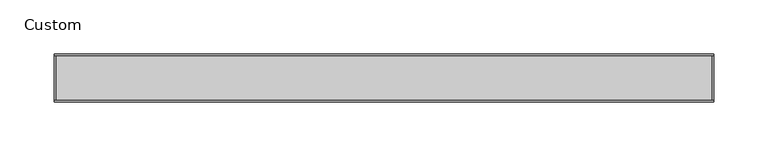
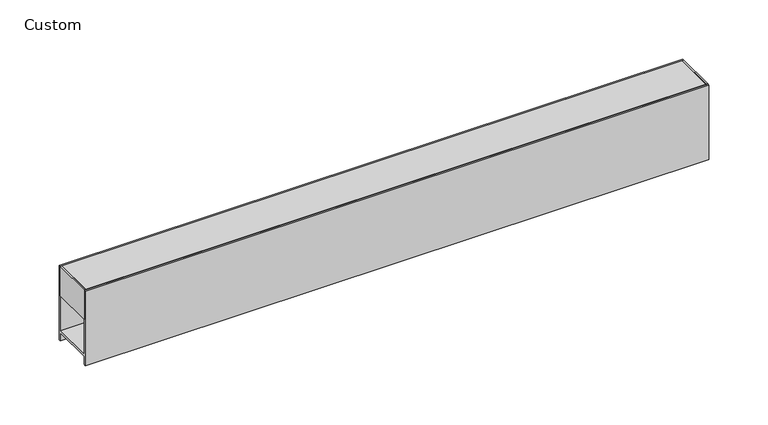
"""IFC4 building model written with IfcOpenShell, lengths in millimetres: light fixture geometry, Lighting-Pendant-Axis-Sculpt-Linear-Direct : Custom."""

import ifcopenshell
import ifcopenshell.guid

model = None  # the IFC model being written
_history = None  # IfcOwnerHistory: only IFC2X3 demands one
_inside = {}  # id of a spatial element -> (the spatial element, [elements in it])
_under = {}  # id of a project, library or spatial element -> (it, [spatial elements below it])
_declared = {}  # id of a project -> (the project, [libraries it declares])
_typed = {}  # id of a type object -> (the type object, [elements of that type])
_made_of = {}  # id of a material, layer set ... -> (it, [elements and type objects made of it])


def new_model(schema):
    """Start an empty IFC model of exactly this schema.

    Asked for "IFC4X3", IfcOpenShell would pick the latest addendum, in which some entities
    have other attributes; the version numbers below select the first issue.
    IFC2X3 requires an IfcOwnerHistory on every rooted entity: one is made here for all.
    """
    global model, _history
    if schema == "IFC4X3":
        model = ifcopenshell.file(schema_version=(4, 3, 0, 0))
    else:
        model = ifcopenshell.file(schema=schema)
    _inside.clear()
    _under.clear()
    _declared.clear()
    _typed.clear()
    _made_of.clear()
    _history = None
    if model.schema == "IFC2X3":
        org = make("IfcOrganization", Name="unknown")
        user = make(
            "IfcPersonAndOrganization",
            ThePerson=make("IfcPerson", FamilyName="unknown"),
            TheOrganization=org,
        )
        app = make(
            "IfcApplication",
            ApplicationDeveloper=org,
            Version="unknown",
            ApplicationFullName="unknown",
            ApplicationIdentifier="unknown",
        )
        _history = make(
            "IfcOwnerHistory",
            OwningUser=user,
            OwningApplication=app,
            ChangeAction="ADDED",
            CreationDate=0,
        )
    return model


def make(cls, **values):
    """One entity of the class cls with the attributes given. An attribute that is None is left unset."""
    return model.create_entity(
        cls, **{name: value for name, value in values.items() if value is not None}
    )


def rooted(cls, **values):
    """An entity with a GlobalId (a new one), such as an element, a storey or a relation."""
    return make(cls, GlobalId=ifcopenshell.guid.new(), OwnerHistory=_history, **values)


def si_unit(unit_type, name, prefix=None):
    """IfcSIUnit, for example si_unit("LENGTHUNIT", "METRE", prefix="MILLI")."""
    return make("IfcSIUnit", UnitType=unit_type, Prefix=prefix, Name=name)


def assignment(units):
    """IfcUnitAssignment: the units of a project."""
    return None if units is None else make("IfcUnitAssignment", Units=units)


def point(xyz):
    """IfcCartesianPoint."""
    return None if xyz is None else make("IfcCartesianPoint", Coordinates=xyz)


def direction(xyz):
    """IfcDirection."""
    return None if xyz is None else make("IfcDirection", DirectionRatios=xyz)


def frame(location, z_axis=None, x_axis=None):
    """IfcAxis2Placement3D, a coordinate frame: its origin and axes. An axis left out is left unset."""
    return make(
        "IfcAxis2Placement3D",
        Location=point(location),
        Axis=direction(z_axis),
        RefDirection=direction(x_axis),
    )


def origin():
    """The frame at (0, 0, 0) with its axes left unset."""
    return frame((0.0, 0.0, 0.0))


def place(relative_to, where):
    """IfcLocalPlacement: puts the frame where relative to a parent placement (None: the world)."""
    return make(
        "IfcLocalPlacement", PlacementRelTo=relative_to, RelativePlacement=where
    )


def context(
    kind, dimensions, precision=None, world=None, true_north=None, identifier=None
):
    """IfcGeometricRepresentationContext, for example the 3D "Model" context."""
    return make(
        "IfcGeometricRepresentationContext",
        ContextIdentifier=identifier,
        ContextType=kind,
        CoordinateSpaceDimension=dimensions,
        Precision=precision,
        WorldCoordinateSystem=world,
        TrueNorth=true_north,
    )


def project(units=None, contexts=None):
    """IfcProject with its units and contexts."""
    return rooted(
        "IfcProject",
        Name="project",
        RepresentationContexts=contexts,
        UnitsInContext=assignment(units),
    )


def spatial(cls, under=None, at=None, **own):
    """A site, building, storey or space (cls), placed at a placement, below another one or the project."""
    s = rooted(cls, ObjectPlacement=at, **own)
    if under is not None:
        _under.setdefault(under.id(), (under, []))[1].append(s)
    return s


def polyline(points):
    """IfcPolyline through the points."""
    return make("IfcPolyline", Points=[point(p) for p in points])


def outline(outer, holes=None, kind="AREA"):
    """IfcArbitraryClosedProfileDef: a profile drawn as a closed curve; with holes, ...WithVoids."""
    if holes is None:
        return make("IfcArbitraryClosedProfileDef", ProfileType=kind, OuterCurve=outer)
    return make(
        "IfcArbitraryProfileDefWithVoids",
        ProfileType=kind,
        OuterCurve=outer,
        InnerCurves=holes,
    )


def extrude(swept, where, along, depth):
    """IfcExtrudedAreaSolid: the profile swept, set in the frame where, extruded along a direction by depth."""
    return make(
        "IfcExtrudedAreaSolid",
        SweptArea=swept,
        Position=where,
        ExtrudedDirection=direction(along),
        Depth=depth,
    )


def shape(context_of_items, identifier, shape_type, items):
    """IfcShapeRepresentation: the items that make up one representation, for example the "Body"."""
    return make(
        "IfcShapeRepresentation",
        ContextOfItems=context_of_items,
        RepresentationIdentifier=identifier,
        RepresentationType=shape_type,
        Items=items,
    )


def source(mapping_origin, context_of_items, identifier, shape_type, items):
    """IfcRepresentationMap: a shape defined once, which mapped items show again and again."""
    return make(
        "IfcRepresentationMap",
        MappingOrigin=mapping_origin,
        MappedRepresentation=shape(context_of_items, identifier, shape_type, items),
    )


def transform(
    local_origin,
    x_axis=None,
    y_axis=None,
    z_axis=None,
    scale=None,
    scale2=None,
    scale3=None,
    uniform=True,
):
    """IfcCartesianTransformationOperator3D, or its non-uniform kind. x_axis, y_axis, z_axis: its Axis1, 2, 3."""
    if uniform:
        return make(
            "IfcCartesianTransformationOperator3D",
            Axis1=direction(x_axis),
            Axis2=direction(y_axis),
            LocalOrigin=point(local_origin),
            Scale=scale,
            Axis3=direction(z_axis),
        )
    return make(
        "IfcCartesianTransformationOperator3DnonUniform",
        Axis1=direction(x_axis),
        Axis2=direction(y_axis),
        LocalOrigin=point(local_origin),
        Scale=scale,
        Axis3=direction(z_axis),
        Scale2=scale2,
        Scale3=scale3,
    )


def mapped(mapping_source, mapping_target):
    """IfcMappedItem: shows the shape of a source again, moved by a transform."""
    return make(
        "IfcMappedItem", MappingSource=mapping_source, MappingTarget=mapping_target
    )


def made_of(thing, what):
    """Note that an element or type object is made of a material, layer set ...; save() writes the relation."""
    if what is not None:
        _made_of.setdefault(what.id(), (what, []))[1].append(thing)
    return thing


def element(
    cls,
    number,
    at=None,
    inside=None,
    cuts=None,
    type_object=None,
    material=None,
    context=None,
    identifier="Body",
    shape_type=None,
    held_by="IfcProductDefinitionShape",
    body=None,
    shapes=None,
    **own,
):
    """One element of the class cls, such as IfcWall. Its Tag is "e" and its number.

    at: its placement. inside: the storey or other place that contains it. cuts: it is an
    opening in that element (IfcRelVoidsElement). A single representation is given by context,
    identifier, shape_type and body (its items); several are given by shapes. held_by: the class
    of the entity that holds the representations. save() writes the other relations.
    """
    e = rooted(cls, Tag="e%d" % number, ObjectPlacement=at, **own)
    if body is not None:
        shapes = [shape(context, identifier, shape_type, body)]
    if shapes is not None:
        e.Representation = make(held_by, Representations=shapes)
    if inside is not None:
        _inside.setdefault(inside.id(), (inside, []))[1].append(e)
    if cuts is not None:
        rooted(
            "IfcRelVoidsElement", RelatingBuildingElement=cuts, RelatedOpeningElement=e
        )
    if type_object is not None:
        _typed.setdefault(type_object.id(), (type_object, []))[1].append(e)
    return made_of(e, material)


def aggregate(whole, parts):
    """IfcRelAggregates: a whole, such as a stair, and the parts it consists of."""
    return rooted("IfcRelAggregates", RelatingObject=whole, RelatedObjects=parts)


def save(model, path):
    """Write the relations noted so far, then the file.

    IfcRelAggregates (storeys below a building ...), IfcRelContainedInSpatialStructure (elements
    in a storey), IfcRelDefinesByType, IfcRelAssociatesMaterial and IfcRelDeclares: one each for
    every whole, place, type object, material and project.
    """
    for whole, parts in _under.values():
        aggregate(whole, parts)
    for where, things in _inside.values():
        rooted(
            "IfcRelContainedInSpatialStructure",
            RelatedElements=things,
            RelatingStructure=where,
        )
    for kind, things in _typed.values():
        rooted("IfcRelDefinesByType", RelatedObjects=things, RelatingType=kind)
    for what, things in _made_of.values():
        rooted("IfcRelAssociatesMaterial", RelatedObjects=things, RelatingMaterial=what)
    for by, libraries in _declared.values():
        rooted("IfcRelDeclares", RelatingContext=by, RelatedDefinitions=libraries)
    model.write(path)


def custom_a9658999(model_context):
    return source(origin(), model_context, "Body", "SweptSolid", [
        extrude(outline(polyline([(-303.276, 20.193), (-303.276, -20.193), (-304.8, -20.193), (-304.8, 20.193), (-303.276, 20.193)])), frame((0.0, 0.0, 656.11502), z_axis=(0.0, 0.0, 1.0), x_axis=(1.0, 0.0, 0.0)), (0.0, 0.0, 1.0), 30.48),
        extrude(outline(polyline([(303.276, 20.193), (304.8, 20.193), (304.8, -20.193), (303.276, -20.193), (303.276, 20.193)])), frame((0.0, 0.0, 656.11502), z_axis=(0.0, 0.0, 1.0), x_axis=(1.0, 0.0, 0.0)), (0.0, 0.0, 1.0), 30.48),
        extrude(outline(polyline([(18.669, 656.11502), (18.669, 685.07102), (-18.669, 685.07102), (-18.669, 656.11502), (-20.193, 656.11502), (-20.193, 686.59502), (20.193, 686.59502), (20.193, 656.11502), (18.669, 656.11502)])), frame((-303.276, 0.0, 0.0), z_axis=(1.0, 0.0, 0.0), x_axis=(0.0, 1.0, 0.0)), (0.0, 0.0, 1.0), 606.552),
        extrude(outline(polyline([(-20.193, 620.0775), (20.193, 620.0775), (20.193, 686.59375), (22.225, 686.59375), (22.225, 609.6), (20.193, 609.6), (20.193, 618.0455), (-20.193, 618.0455), (-20.193, 609.6), (-22.225, 609.6), (-22.225, 686.59375), (-20.193, 686.59375), (-20.193, 620.0775)])), frame((-304.8, 0.0, 0.0), z_axis=(1.0, 0.0, 0.0), x_axis=(0.0, 1.0, 0.0)), (0.0, 0.0, 1.0), 609.6),
    ])


if __name__ == "__main__":
    model = new_model("IFC4")
    model_context = context("Model", 3, world=origin())
    ifc_project = project(units=[si_unit("LENGTHUNIT", "METRE", prefix="MILLI")], contexts=[model_context])
    site = spatial("IfcSite", under=ifc_project)
    building = spatial("IfcBuilding", under=site)
    placement = place(None, origin())
    custom_shape = custom_a9658999(model_context)
    element("IfcLightFixture", 1, ObjectType="Lighting-Pendant-Axis-Sculpt-Linear-Direct : Custom", at=placement, inside=building, context=model_context, shape_type="MappedRepresentation", body=[
        mapped(custom_shape, transform((0.0, 0.0, 0.0), x_axis=(1.0, 0.0, 0.0), y_axis=(0.0, 1.0, 0.0), z_axis=(0.0, 0.0, 1.0))),
    ])
    save(model, "model.ifc")
